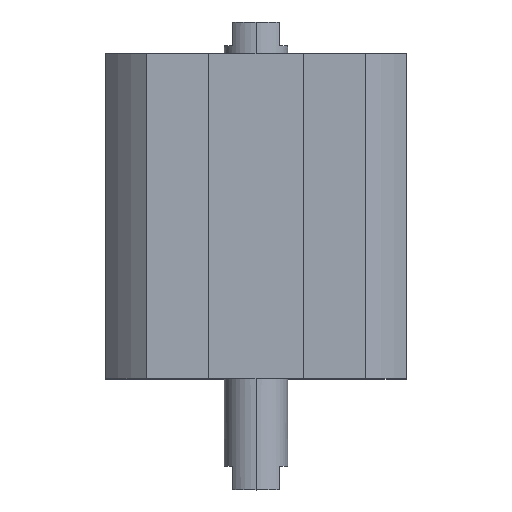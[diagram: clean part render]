
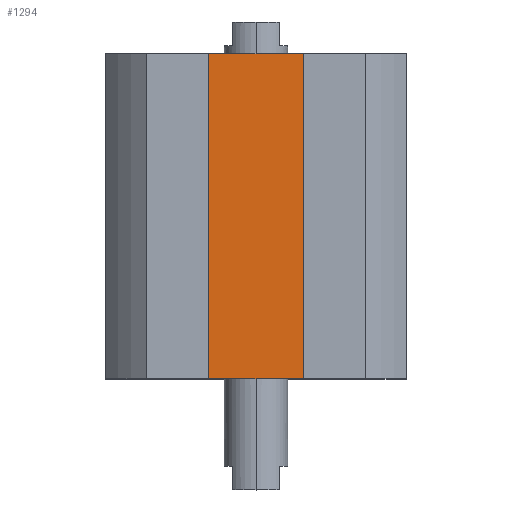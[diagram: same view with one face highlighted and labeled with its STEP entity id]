
A CAD part, top view. The second image highlights one B-rep face of the part: STEP entity #1294.
In plain terms, the highlighted planar face has unit normal (0, 0, 1).
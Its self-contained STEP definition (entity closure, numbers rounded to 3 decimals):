
#153 = EDGE_CURVE ( 'NONE', #1453, #2182, #438, .T. ) ;
#204 = EDGE_CURVE ( 'NONE', #2182, #2845, #3353, .T. ) ;
#239 = LINE ( 'NONE', #2346, #2426 ) ;
#407 = DIRECTION ( 'NONE',  ( 0., 1., 0. ) ) ;
#423 = FACE_OUTER_BOUND ( 'NONE', #485, .T. ) ;
#438 = LINE ( 'NONE', #1833, #1619 ) ;
#485 = EDGE_LOOP ( 'NONE', ( #517, #3425, #1053, #3291 ) ) ;
#517 = ORIENTED_EDGE ( 'NONE', *, *, #204, .F. ) ;
#561 = VECTOR ( 'NONE', #3165, 1000. ) ;
#979 = PLANE ( 'NONE',  #1129 ) ;
#1053 = ORIENTED_EDGE ( 'NONE', *, *, #3350, .T. ) ;
#1129 = AXIS2_PLACEMENT_3D ( 'NONE', #1498, #3487, #1521 ) ;
#1167 = EDGE_CURVE ( 'NONE', #2602, #2845, #2139, .T. ) ;
#1273 = VECTOR ( 'NONE', #2396, 1000. ) ;
#1294 = ADVANCED_FACE ( 'NONE', ( #423 ), #979, .T. ) ;
#1435 = CARTESIAN_POINT ( 'NONE',  ( 7.75, -41., 12.75 ) ) ;
#1453 = VERTEX_POINT ( 'NONE', #1854 ) ;
#1498 = CARTESIAN_POINT ( 'NONE',  ( 0., -41., 12.75 ) ) ;
#1521 = DIRECTION ( 'NONE',  ( 1., 0., 0. ) ) ;
#1619 = VECTOR ( 'NONE', #407, 1000. ) ;
#1693 = CARTESIAN_POINT ( 'NONE',  ( 7.75, -41., 12.75 ) ) ;
#1788 = CARTESIAN_POINT ( 'NONE',  ( 7.75, 0., 12.75 ) ) ;
#1833 = CARTESIAN_POINT ( 'NONE',  ( -7.75, -41., 12.75 ) ) ;
#1854 = CARTESIAN_POINT ( 'NONE',  ( -7.75, -41., 12.75 ) ) ;
#2139 = LINE ( 'NONE', #1435, #561 ) ;
#2182 = VERTEX_POINT ( 'NONE', #2486 ) ;
#2346 = CARTESIAN_POINT ( 'NONE',  ( 0., -41., 12.75 ) ) ;
#2396 = DIRECTION ( 'NONE',  ( 1., 0., 0. ) ) ;
#2426 = VECTOR ( 'NONE', #3233, 1000. ) ;
#2486 = CARTESIAN_POINT ( 'NONE',  ( -7.75, 0., 12.75 ) ) ;
#2602 = VERTEX_POINT ( 'NONE', #1693 ) ;
#2845 = VERTEX_POINT ( 'NONE', #1788 ) ;
#3165 = DIRECTION ( 'NONE',  ( 0., 1., 0. ) ) ;
#3219 = CARTESIAN_POINT ( 'NONE',  ( 0., 0., 12.75 ) ) ;
#3233 = DIRECTION ( 'NONE',  ( 1., 0., 0. ) ) ;
#3291 = ORIENTED_EDGE ( 'NONE', *, *, #1167, .T. ) ;
#3350 = EDGE_CURVE ( 'NONE', #1453, #2602, #239, .T. ) ;
#3353 = LINE ( 'NONE', #3219, #1273 ) ;
#3425 = ORIENTED_EDGE ( 'NONE', *, *, #153, .F. ) ;
#3487 = DIRECTION ( 'NONE',  ( 0., 0., 1. ) ) ;
